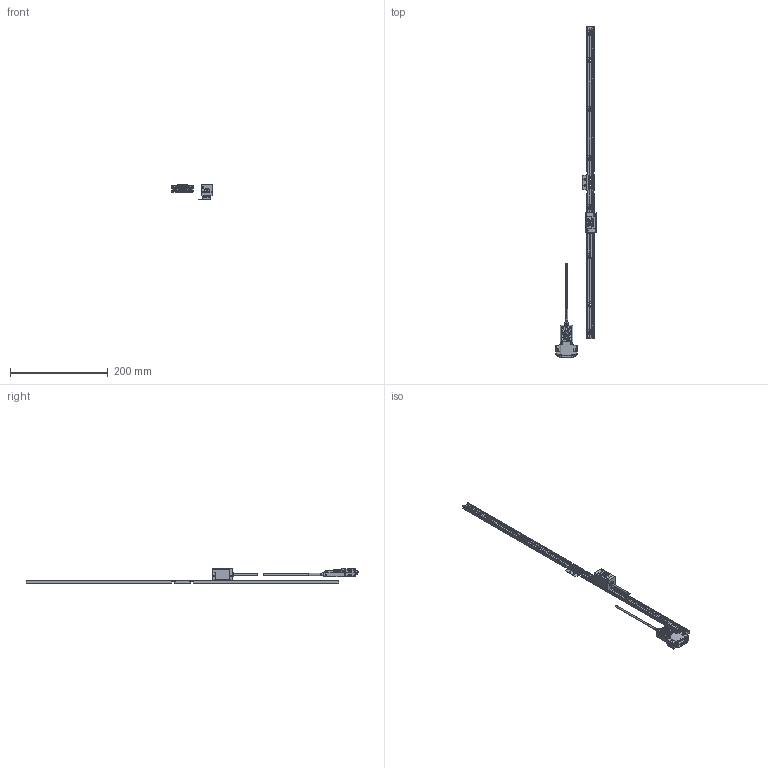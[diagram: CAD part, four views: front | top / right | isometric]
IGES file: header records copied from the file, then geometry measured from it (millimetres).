
Start section: Elysium IGES Interface
Global section: file name: 91HK:\20_商品設計\設計１課\個人\山室\05_作業中雑務\20220810_ST1300 3D HP掲載\ST1300-600F_G.igs; native system: Creo Elements/Direct Modeling 18.1I  13-Aug-2016; preprocessor: Creo Element/Direct IGES_3D V2.2; author: Unknown; organization: Unknown; date: 20220816.100823; units: millimetre
Bounding box: 83 x 679.1 x 30.1 mm (x, y, z)
Volume: 71750.7 mm3; surface area: 47711 mm2
Topology: 3 solids, 6 shells, 3422 faces, 9442 edges, 6166 vertices
Faces by surface type: bspline 3422
